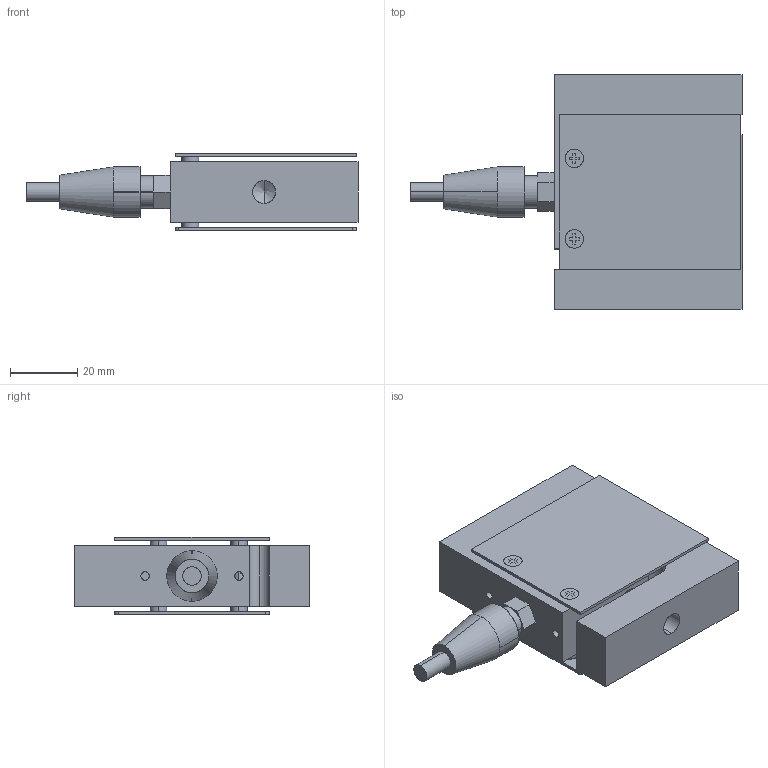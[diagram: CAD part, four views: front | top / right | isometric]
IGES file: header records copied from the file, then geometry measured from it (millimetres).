
Start section: SolidWorks IGES file using analytic representation for surfaces
Global section: file name: O:\16-Entwicklung\Projekte\03_Kraftsensoren\0223_KM1401\01_Mechanik & Gehäuse\01_Solid Works\01_Outline 3D files\3D_KM1401.IGS; native system: SolidWorks 2012; preprocessor: SolidWorks 2012; author: AndreB; date: 140722.075930; units: metre
Bounding box: 99 x 70 x 23 mm (x, y, z)
Surface area: 26532.2 mm2 (no closed solid volume)
Topology: 0 solids, 0 shells, 85 faces, 1584 edges, 1580 vertices
Faces by surface type: bspline 43, revolution 42
